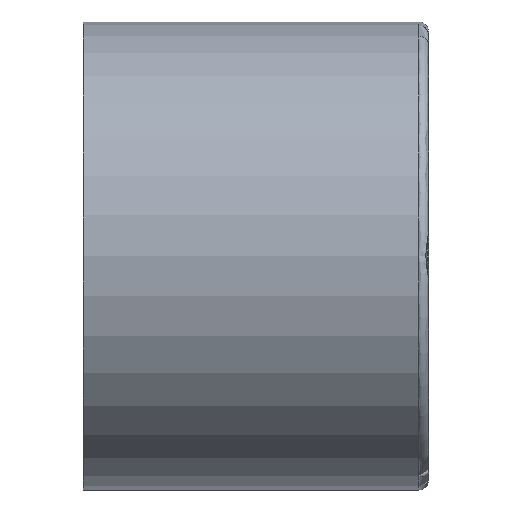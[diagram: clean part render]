
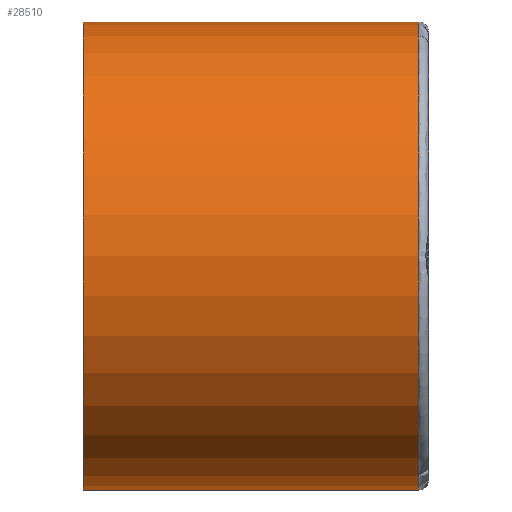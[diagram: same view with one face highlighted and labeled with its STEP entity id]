
A CAD part, top view. The second image highlights one B-rep face of the part: STEP entity #28510.
In plain terms, the highlighted cylindrical face has radius 29.3 mm (diameter 58.6 mm), a partial arc.
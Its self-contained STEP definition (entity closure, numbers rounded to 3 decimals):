
#320 = EDGE_CURVE ( 'NONE', #8284, #9803, #42314, .T. ) ;
#1932 = CARTESIAN_POINT ( 'NONE',  ( -43.2, 29.3, 0. ) ) ;
#4960 = CIRCLE ( 'NONE', #24375, 29.3 ) ;
#5919 = VERTEX_POINT ( 'NONE', #16717 ) ;
#7834 = DIRECTION ( 'NONE',  ( 1., 0., 0. ) ) ;
#8284 = VERTEX_POINT ( 'NONE', #31922 ) ;
#8558 = AXIS2_PLACEMENT_3D ( 'NONE', #46322, #42343, #34509 ) ;
#9094 = CARTESIAN_POINT ( 'NONE',  ( -43.2, 0., 0. ) ) ;
#9803 = VERTEX_POINT ( 'NONE', #30676 ) ;
#12651 = LINE ( 'NONE', #1932, #15673 ) ;
#15673 = VECTOR ( 'NONE', #35606, 1000. ) ;
#16663 = CARTESIAN_POINT ( 'NONE',  ( -1.2, 29.3, 0. ) ) ;
#16717 = CARTESIAN_POINT ( 'NONE',  ( -43.2, 29.3, 0. ) ) ;
#17331 = VECTOR ( 'NONE', #32135, 1000. ) ;
#24375 = AXIS2_PLACEMENT_3D ( 'NONE', #9094, #39302, #35979 ) ;
#28510 = ADVANCED_FACE ( 'NONE', ( #38490 ), #29574, .T. ) ;
#29574 = CYLINDRICAL_SURFACE ( 'NONE', #45551, 29.3 ) ;
#30676 = CARTESIAN_POINT ( 'NONE',  ( -1.2, -29.3, 0. ) ) ;
#31089 = CARTESIAN_POINT ( 'NONE',  ( -43.2, 0., 0. ) ) ;
#31922 = CARTESIAN_POINT ( 'NONE',  ( -43.2, -29.3, 0. ) ) ;
#31947 = EDGE_LOOP ( 'NONE', ( #39610, #39532, #45075, #47048 ) ) ;
#31962 = CARTESIAN_POINT ( 'NONE',  ( -43.2, -29.3, 0. ) ) ;
#32135 = DIRECTION ( 'NONE',  ( 1., 0., 0. ) ) ;
#34509 = DIRECTION ( 'NONE',  ( 0., 1., 0. ) ) ;
#34647 = VERTEX_POINT ( 'NONE', #16663 ) ;
#35080 = CIRCLE ( 'NONE', #8558, 29.3 ) ;
#35606 = DIRECTION ( 'NONE',  ( 1., 0., 0. ) ) ;
#35979 = DIRECTION ( 'NONE',  ( 0., 1., 0. ) ) ;
#38490 = FACE_OUTER_BOUND ( 'NONE', #31947, .T. ) ;
#39302 = DIRECTION ( 'NONE',  ( -1., 0., 0. ) ) ;
#39532 = ORIENTED_EDGE ( 'NONE', *, *, #44736, .F. ) ;
#39610 = ORIENTED_EDGE ( 'NONE', *, *, #45319, .F. ) ;
#42314 = LINE ( 'NONE', #31962, #17331 ) ;
#42343 = DIRECTION ( 'NONE',  ( -1., 0., 0. ) ) ;
#44736 = EDGE_CURVE ( 'NONE', #8284, #5919, #4960, .T. ) ;
#45075 = ORIENTED_EDGE ( 'NONE', *, *, #320, .T. ) ;
#45319 = EDGE_CURVE ( 'NONE', #5919, #34647, #12651, .T. ) ;
#45551 = AXIS2_PLACEMENT_3D ( 'NONE', #31089, #7834, #45876 ) ;
#45876 = DIRECTION ( 'NONE',  ( 0., -1., 0. ) ) ;
#46322 = CARTESIAN_POINT ( 'NONE',  ( -1.2, 0., 0. ) ) ;
#47048 = ORIENTED_EDGE ( 'NONE', *, *, #49252, .T. ) ;
#49252 = EDGE_CURVE ( 'NONE', #9803, #34647, #35080, .T. ) ;
